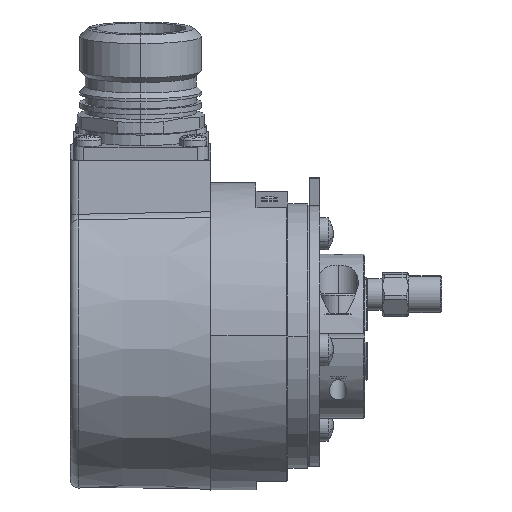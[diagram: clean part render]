
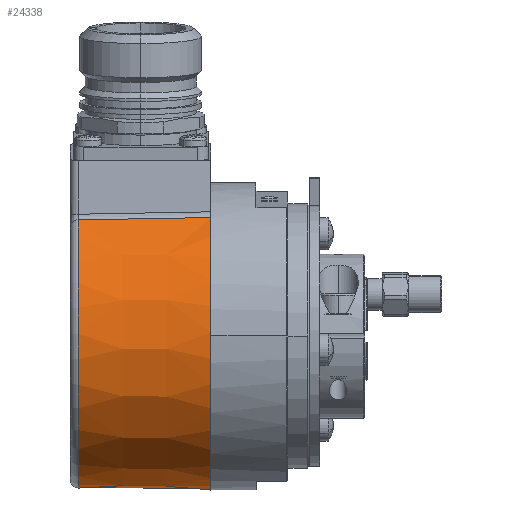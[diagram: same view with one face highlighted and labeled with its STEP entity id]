
A CAD part, top view. The second image highlights one B-rep face of the part: STEP entity #24338.
In plain terms, the highlighted conical face has half-angle 0.75 degrees and reference radius 29 mm.
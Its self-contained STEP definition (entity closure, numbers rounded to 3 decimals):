
#10014 = DIRECTION ( 'NONE',  ( 0., -0.993, -0.122 ) ) ;
#10015 = DIRECTION ( 'NONE',  ( 1., 0., 0. ) ) ;
#10016 = CARTESIAN_POINT ( 'NONE',  ( 7.5, 0., 0. ) ) ;
#10017 = AXIS2_PLACEMENT_3D ( 'NONE', #10016, #10015, #10014 ) ;
#10018 = CONICAL_SURFACE ( 'NONE', #10017, 29., 0.013 ) ;
#10033 = FACE_OUTER_BOUND ( 'NONE', #24394, .T. ) ;
#10059 = CARTESIAN_POINT ( 'NONE',  ( 7.5, -28.784, -3.534 ) ) ;
#10060 = DIRECTION ( 'NONE',  ( 1., -0.013, -0.002 ) ) ;
#10061 = VECTOR ( 'NONE', #10060, 1000. ) ;
#10062 = CARTESIAN_POINT ( 'NONE',  ( 7.5, -28.784, -3.534 ) ) ;
#10063 = LINE ( 'NONE', #10062, #10061 ) ;
#10084 = CARTESIAN_POINT ( 'NONE',  ( 7.5, 22.36, 18.467 ) ) ;
#10085 = DIRECTION ( 'NONE',  ( 0., 0.993, 0.122 ) ) ;
#10086 = DIRECTION ( 'NONE',  ( -1., 0., 0. ) ) ;
#10087 = CARTESIAN_POINT ( 'NONE',  ( 7.5, 0., 0. ) ) ;
#10088 = AXIS2_PLACEMENT_3D ( 'NONE', #10087, #10086, #10085 ) ;
#10089 = CIRCLE ( 'NONE', #10088, 29. ) ;
#10166 = CARTESIAN_POINT ( 'NONE',  ( -17.52, 21.923, 18.479 ) ) ;
#10167 = CARTESIAN_POINT ( 'NONE',  ( -14.179, 21.982, 18.477 ) ) ;
#10168 = CARTESIAN_POINT ( 'NONE',  ( -10.838, 22.04, 18.476 ) ) ;
#10169 = CARTESIAN_POINT ( 'NONE',  ( -7.498, 22.099, 18.474 ) ) ;
#10170 = CARTESIAN_POINT ( 'NONE',  ( -3.498, 22.169, 18.472 ) ) ;
#10171 = CARTESIAN_POINT ( 'NONE',  ( 0.501, 22.238, 18.47 ) ) ;
#10172 = CARTESIAN_POINT ( 'NONE',  ( 4.5, 22.308, 18.469 ) ) ;
#10173 = CARTESIAN_POINT ( 'NONE',  ( 5.5, 22.325, 18.468 ) ) ;
#10174 = CARTESIAN_POINT ( 'NONE',  ( 6.5, 22.343, 18.468 ) ) ;
#10175 = CARTESIAN_POINT ( 'NONE',  ( 7.5, 22.36, 18.467 ) ) ;
#10178 = B_SPLINE_CURVE_WITH_KNOTS ( 'NONE', 3,
 ( #10175, #10174, #10173, #10172, #10171, #10170, #10169, #10168, #10167, #10166 ),
 .UNSPECIFIED., .F., .F.,
 ( 4, 3, 3, 4 ),
 ( 0., 0.003, 0.015, 0.025 ),
 .UNSPECIFIED. ) ;
#10269 = CARTESIAN_POINT ( 'NONE',  ( -17.52, -28.459, -3.494 ) ) ;
#10274 = DIRECTION ( 'NONE',  ( 0., 0.993, 0.122 ) ) ;
#10275 = DIRECTION ( 'NONE',  ( 1., 0., 0. ) ) ;
#10276 = CARTESIAN_POINT ( 'NONE',  ( -17.52, 0., 0. ) ) ;
#10278 = AXIS2_PLACEMENT_3D ( 'NONE', #10276, #10275, #10274 ) ;
#10279 = CIRCLE ( 'NONE', #10278, 28.672 ) ;
#10280 = CARTESIAN_POINT ( 'NONE',  ( -17.52, 21.923, 18.479 ) ) ;
#24338 = ADVANCED_FACE ( 'NONE', ( #10033 ), #10018, .T. ) ;
#24342 = EDGE_CURVE ( 'NONE', #24406, #24343, #10063, .T. ) ;
#24343 = VERTEX_POINT ( 'NONE', #10059 ) ;
#24344 = ORIENTED_EDGE ( 'NONE', *, *, #24348, .T. ) ;
#24348 = EDGE_CURVE ( 'NONE', #24343, #24349, #10089, .T. ) ;
#24349 = VERTEX_POINT ( 'NONE', #10084 ) ;
#24371 = ORIENTED_EDGE ( 'NONE', *, *, #24403, .T. ) ;
#24372 = ORIENTED_EDGE ( 'NONE', *, *, #24342, .T. ) ;
#24374 = ORIENTED_EDGE ( 'NONE', *, *, #24375, .T. ) ;
#24375 = EDGE_CURVE ( 'NONE', #24349, #24404, #10178, .T. ) ;
#24394 = EDGE_LOOP ( 'NONE', ( #24371, #24372, #24344, #24374 ) ) ;
#24403 = EDGE_CURVE ( 'NONE', #24404, #24406, #10279, .T. ) ;
#24404 = VERTEX_POINT ( 'NONE', #10280 ) ;
#24406 = VERTEX_POINT ( 'NONE', #10269 ) ;
